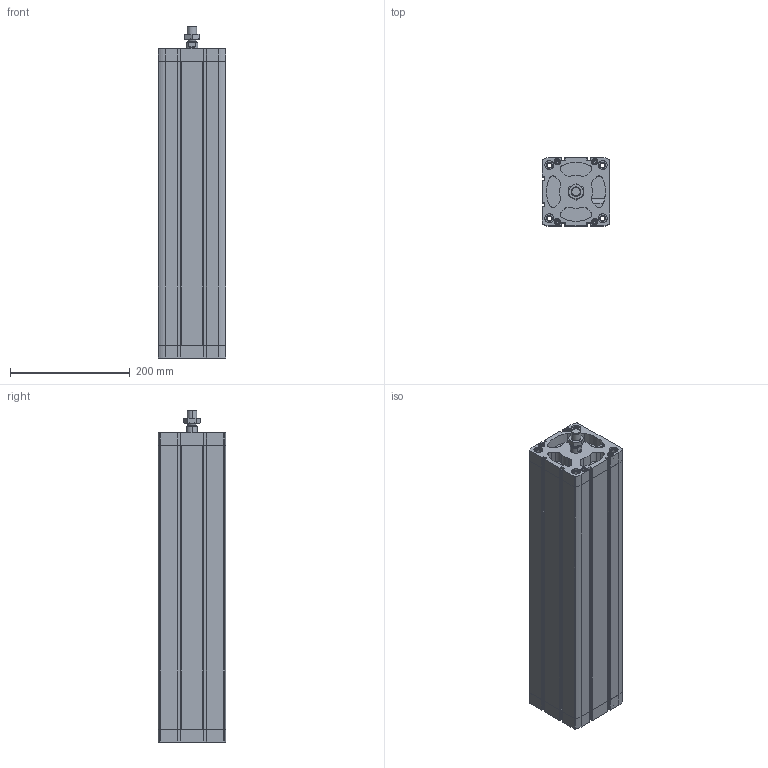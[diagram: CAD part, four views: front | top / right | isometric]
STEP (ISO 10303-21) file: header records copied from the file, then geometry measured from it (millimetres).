
FILE_DESCRIPTION (( 'STEP AP203' ), '1' );
FILE_NAME ('CCN100-450M.STEP', '2020-06-05T18:10:54', ( '' ), ( '' ), 'SwSTEP 2.0', 'SolidWorks 2019', '' );
FILE_SCHEMA (( 'CONFIG_CONTROL_DESIGN' ));
Length unit declared in the file: millimetre
Products named in the file (1): CCN100-450M
Bounding box: 113.5 x 113.5 x 554.8 mm (x, y, z)
Volume: 2825850.3 mm3; surface area: 592556.2 mm2
Topology: 3 solids, 3 shells, 648 faces, 1673 edges, 1068 vertices
Faces by surface type: plane 292, cylinder 272, cone 80, torus 4
Entity records: 21246 total; most frequent: CARTESIAN_POINT 4984, DIRECTION 3541, ORIENTED_EDGE 3314, EDGE_CURVE 1657, AXIS2_PLACEMENT_3D 1319, VERTEX_POINT 1068, LINE 903, VECTOR 903
